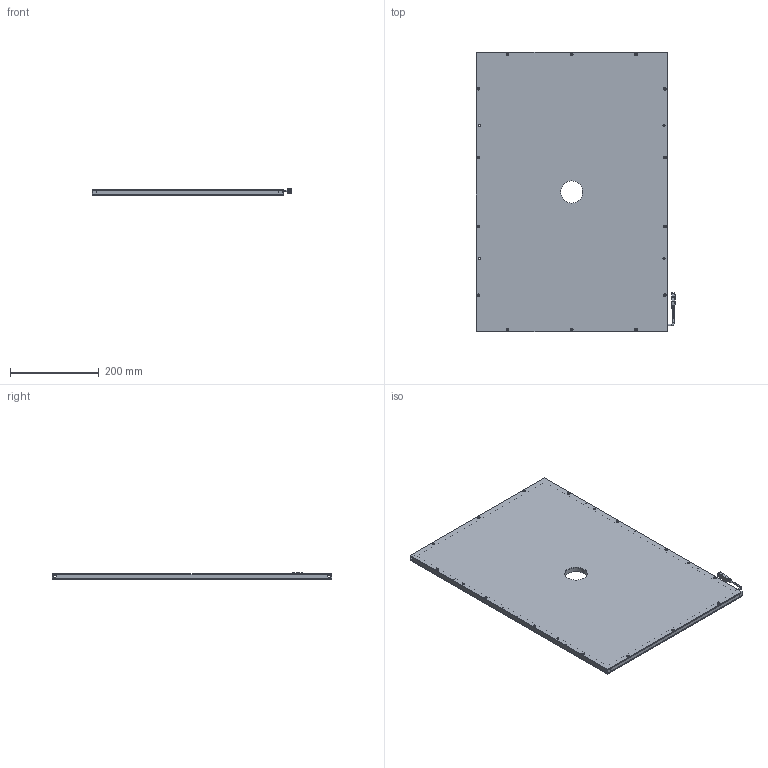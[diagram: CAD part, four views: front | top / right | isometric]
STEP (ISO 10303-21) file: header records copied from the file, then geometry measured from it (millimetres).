
FILE_DESCRIPTION (( 'STEP AP203' ), '1' );
FILE_NAME ('CRT-KFLC590390Y50-¼òÒ×3DÍ¼.STEP', '2021-11-30T02:31:33', ( 'Admin' ), ( '' ), 'SwSTEP 2.0', 'SolidWorks 2018', '' );
FILE_SCHEMA (( 'CONFIG_CONTROL_DESIGN' ));
Length unit declared in the file: millimetre
Products named in the file (1): CRT-KFLC590390Y50-潠眢3D芞
Bounding box: 449.45 x 630 x 14.85 mm (x, y, z)
Surface area: 881983 mm2 (no closed solid volume)
Topology: 0 solids, 18 shells, 246 faces, 874 edges, 636 vertices
Faces by surface type: plane 109, cylinder 97, cone 35, bspline 4, torus 1
Entity records: 9900 total; most frequent: CARTESIAN_POINT 2273, DIRECTION 1618, ORIENTED_EDGE 1331, EDGE_CURVE 874, VERTEX_POINT 636, AXIS2_PLACEMENT_3D 547, VECTOR 524, LINE 524
